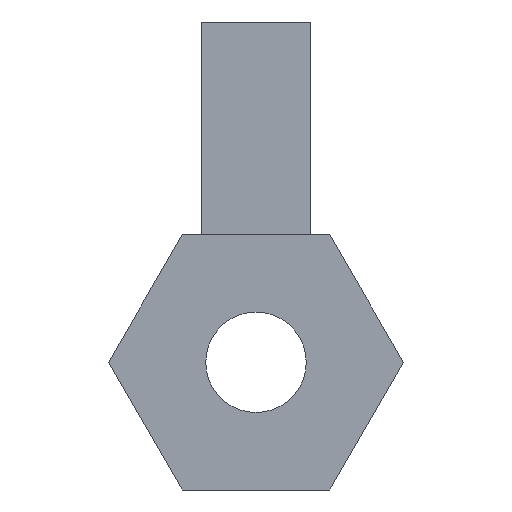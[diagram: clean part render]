
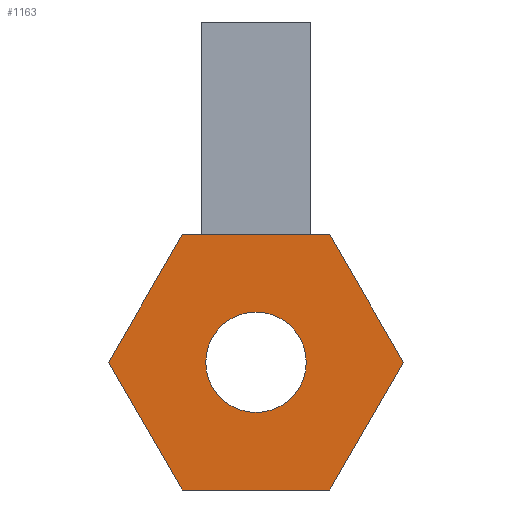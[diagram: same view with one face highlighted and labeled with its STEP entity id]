
A CAD part, left-side view. The second image highlights one B-rep face of the part: STEP entity #1163.
In plain terms, the highlighted planar face has unit normal (-1, 0, 0).
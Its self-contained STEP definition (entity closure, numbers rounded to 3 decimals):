
#346 = PLANE('',#347);
#347 = AXIS2_PLACEMENT_3D('',#348,#349,#350);
#348 = CARTESIAN_POINT('',(0.,0.,0.394));
#349 = DIRECTION('',(0.,0.,1.));
#350 = DIRECTION('',(0.,1.,0.));
#603 = CYLINDRICAL_SURFACE('',#604,0.155);
#604 = AXIS2_PLACEMENT_3D('',#605,#606,#607);
#605 = CARTESIAN_POINT('',(-1.54,0.,0.)
  );
#606 = DIRECTION('',(1.,0.,0.));
#607 = DIRECTION('',(0.,-1.,0.));
#632 = VERTEX_POINT('',#633);
#633 = CARTESIAN_POINT('',(-1.54,-0.155,0.));
#653 = EDGE_CURVE('',#632,#632,#654,.T.);
#654 = SURFACE_CURVE('',#655,(#660,#667),.PCURVE_S1.);
#655 = CIRCLE('',#656,0.155);
#656 = AXIS2_PLACEMENT_3D('',#657,#658,#659);
#657 = CARTESIAN_POINT('',(-1.54,0.,0.)
  );
#658 = DIRECTION('',(1.,0.,0.));
#659 = DIRECTION('',(0.,-1.,0.));
#660 = PCURVE('',#603,#661);
#661 = DEFINITIONAL_REPRESENTATION('',(#662),#666);
#662 = LINE('',#663,#664);
#663 = CARTESIAN_POINT('',(0.,0.));
#664 = VECTOR('',#665,1.);
#665 = DIRECTION('',(1.,0.));
#666 = ( GEOMETRIC_REPRESENTATION_CONTEXT(2) 
PARAMETRIC_REPRESENTATION_CONTEXT() REPRESENTATION_CONTEXT('2D SPACE',''
  ) );
#667 = PCURVE('',#668,#673);
#668 = PLANE('',#669);
#669 = AXIS2_PLACEMENT_3D('',#670,#671,#672);
#670 = CARTESIAN_POINT('',(-1.54,0.,0.)
  );
#671 = DIRECTION('',(1.,0.,0.));
#672 = DIRECTION('',(0.,0.,-1.));
#673 = DEFINITIONAL_REPRESENTATION('',(#674),#678);
#674 = CIRCLE('',#675,0.155);
#675 = AXIS2_PLACEMENT_2D('',#676,#677);
#676 = CARTESIAN_POINT('',(0.,0.));
#677 = DIRECTION('',(0.,-1.));
#678 = ( GEOMETRIC_REPRESENTATION_CONTEXT(2) 
PARAMETRIC_REPRESENTATION_CONTEXT() REPRESENTATION_CONTEXT('2D SPACE',''
  ) );
#710 = EDGE_CURVE('',#711,#713,#715,.T.);
#711 = VERTEX_POINT('',#712);
#712 = CARTESIAN_POINT('',(-1.54,-0.227,-0.394));
#713 = VERTEX_POINT('',#714);
#714 = CARTESIAN_POINT('',(-1.54,0.227,-0.394));
#715 = SURFACE_CURVE('',#716,(#720,#732),.PCURVE_S1.);
#716 = LINE('',#717,#718);
#717 = CARTESIAN_POINT('',(-1.54,0.227,-0.394));
#718 = VECTOR('',#719,1.);
#719 = DIRECTION('',(0.,1.,0.));
#720 = PCURVE('',#721,#726);
#721 = PLANE('',#722);
#722 = AXIS2_PLACEMENT_3D('',#723,#724,#725);
#723 = CARTESIAN_POINT('',(0.,0.,-0.394));
#724 = DIRECTION('',(0.,0.,-1.));
#725 = DIRECTION('',(0.,-1.,0.));
#726 = DEFINITIONAL_REPRESENTATION('',(#727),#731);
#727 = LINE('',#728,#729);
#728 = CARTESIAN_POINT('',(-0.227,1.54));
#729 = VECTOR('',#730,1.);
#730 = DIRECTION('',(-1.,-0.));
#731 = ( GEOMETRIC_REPRESENTATION_CONTEXT(2) 
PARAMETRIC_REPRESENTATION_CONTEXT() REPRESENTATION_CONTEXT('2D SPACE',''
  ) );
#732 = PCURVE('',#668,#733);
#733 = DEFINITIONAL_REPRESENTATION('',(#734),#738);
#734 = LINE('',#735,#736);
#735 = CARTESIAN_POINT('',(0.394,0.227));
#736 = VECTOR('',#737,1.);
#737 = DIRECTION('',(0.,1.));
#738 = ( GEOMETRIC_REPRESENTATION_CONTEXT(2) 
PARAMETRIC_REPRESENTATION_CONTEXT() REPRESENTATION_CONTEXT('2D SPACE',''
  ) );
#756 = PLANE('',#757);
#757 = AXIS2_PLACEMENT_3D('',#758,#759,#760);
#758 = CARTESIAN_POINT('',(0.,0.341,-0.197));
#759 = DIRECTION('',(0.,0.866,-0.5));
#760 = DIRECTION('',(0.,-0.5,-0.866));
#805 = PLANE('',#806);
#806 = AXIS2_PLACEMENT_3D('',#807,#808,#809);
#807 = CARTESIAN_POINT('',(0.,-0.341,-0.197));
#808 = DIRECTION('',(0.,-0.866,-0.5));
#809 = DIRECTION('',(0.,-0.5,0.866));
#820 = EDGE_CURVE('',#713,#821,#823,.T.);
#821 = VERTEX_POINT('',#822);
#822 = CARTESIAN_POINT('',(-1.54,0.455,0.));
#823 = SURFACE_CURVE('',#824,(#828,#835),.PCURVE_S1.);
#824 = LINE('',#825,#826);
#825 = CARTESIAN_POINT('',(-1.54,0.455,0.));
#826 = VECTOR('',#827,1.);
#827 = DIRECTION('',(0.,0.5,0.866));
#828 = PCURVE('',#756,#829);
#829 = DEFINITIONAL_REPRESENTATION('',(#830),#834);
#830 = LINE('',#831,#832);
#831 = CARTESIAN_POINT('',(-0.227,1.54));
#832 = VECTOR('',#833,1.);
#833 = DIRECTION('',(-1.,0.));
#834 = ( GEOMETRIC_REPRESENTATION_CONTEXT(2) 
PARAMETRIC_REPRESENTATION_CONTEXT() REPRESENTATION_CONTEXT('2D SPACE',''
  ) );
#835 = PCURVE('',#668,#836);
#836 = DEFINITIONAL_REPRESENTATION('',(#837),#841);
#837 = LINE('',#838,#839);
#838 = CARTESIAN_POINT('',(0.,0.455));
#839 = VECTOR('',#840,1.);
#840 = DIRECTION('',(-0.866,0.5));
#841 = ( GEOMETRIC_REPRESENTATION_CONTEXT(2) 
PARAMETRIC_REPRESENTATION_CONTEXT() REPRESENTATION_CONTEXT('2D SPACE',''
  ) );
#859 = PLANE('',#860);
#860 = AXIS2_PLACEMENT_3D('',#861,#862,#863);
#861 = CARTESIAN_POINT('',(0.,0.341,0.197));
#862 = DIRECTION('',(0.,0.866,0.5));
#863 = DIRECTION('',(0.,0.5,-0.866));
#896 = EDGE_CURVE('',#821,#897,#899,.T.);
#897 = VERTEX_POINT('',#898);
#898 = CARTESIAN_POINT('',(-1.54,0.227,0.394));
#899 = SURFACE_CURVE('',#900,(#904,#911),.PCURVE_S1.);
#900 = LINE('',#901,#902);
#901 = CARTESIAN_POINT('',(-1.54,0.227,0.394));
#902 = VECTOR('',#903,1.);
#903 = DIRECTION('',(0.,-0.5,0.866));
#904 = PCURVE('',#859,#905);
#905 = DEFINITIONAL_REPRESENTATION('',(#906),#910);
#906 = LINE('',#907,#908);
#907 = CARTESIAN_POINT('',(-0.227,1.54));
#908 = VECTOR('',#909,1.);
#909 = DIRECTION('',(-1.,0.));
#910 = ( GEOMETRIC_REPRESENTATION_CONTEXT(2) 
PARAMETRIC_REPRESENTATION_CONTEXT() REPRESENTATION_CONTEXT('2D SPACE',''
  ) );
#911 = PCURVE('',#668,#912);
#912 = DEFINITIONAL_REPRESENTATION('',(#913),#917);
#913 = LINE('',#914,#915);
#914 = CARTESIAN_POINT('',(-0.394,0.227));
#915 = VECTOR('',#916,1.);
#916 = DIRECTION('',(-0.866,-0.5));
#917 = ( GEOMETRIC_REPRESENTATION_CONTEXT(2) 
PARAMETRIC_REPRESENTATION_CONTEXT() REPRESENTATION_CONTEXT('2D SPACE',''
  ) );
#973 = EDGE_CURVE('',#897,#974,#976,.T.);
#974 = VERTEX_POINT('',#975);
#975 = CARTESIAN_POINT('',(-1.54,-0.227,0.394));
#976 = SURFACE_CURVE('',#977,(#981,#988),.PCURVE_S1.);
#977 = LINE('',#978,#979);
#978 = CARTESIAN_POINT('',(-1.54,-0.227,0.394));
#979 = VECTOR('',#980,1.);
#980 = DIRECTION('',(0.,-1.,0.));
#981 = PCURVE('',#346,#982);
#982 = DEFINITIONAL_REPRESENTATION('',(#983),#987);
#983 = LINE('',#984,#985);
#984 = CARTESIAN_POINT('',(-0.227,1.54));
#985 = VECTOR('',#986,1.);
#986 = DIRECTION('',(-1.,0.));
#987 = ( GEOMETRIC_REPRESENTATION_CONTEXT(2) 
PARAMETRIC_REPRESENTATION_CONTEXT() REPRESENTATION_CONTEXT('2D SPACE',''
  ) );
#988 = PCURVE('',#668,#989);
#989 = DEFINITIONAL_REPRESENTATION('',(#990),#994);
#990 = LINE('',#991,#992);
#991 = CARTESIAN_POINT('',(-0.394,-0.227));
#992 = VECTOR('',#993,1.);
#993 = DIRECTION('',(0.,-1.));
#994 = ( GEOMETRIC_REPRESENTATION_CONTEXT(2) 
PARAMETRIC_REPRESENTATION_CONTEXT() REPRESENTATION_CONTEXT('2D SPACE',''
  ) );
#1012 = PLANE('',#1013);
#1013 = AXIS2_PLACEMENT_3D('',#1014,#1015,#1016);
#1014 = CARTESIAN_POINT('',(0.,-0.341,0.197));
#1015 = DIRECTION('',(0.,-0.866,0.5));
#1016 = DIRECTION('',(0.,0.5,0.866));
#1049 = EDGE_CURVE('',#974,#1050,#1052,.T.);
#1050 = VERTEX_POINT('',#1051);
#1051 = CARTESIAN_POINT('',(-1.54,-0.455,0.));
#1052 = SURFACE_CURVE('',#1053,(#1057,#1064),.PCURVE_S1.);
#1053 = LINE('',#1054,#1055);
#1054 = CARTESIAN_POINT('',(-1.54,-0.455,0.));
#1055 = VECTOR('',#1056,1.);
#1056 = DIRECTION('',(0.,-0.5,-0.866));
#1057 = PCURVE('',#1012,#1058);
#1058 = DEFINITIONAL_REPRESENTATION('',(#1059),#1063);
#1059 = LINE('',#1060,#1061);
#1060 = CARTESIAN_POINT('',(-0.227,1.54));
#1061 = VECTOR('',#1062,1.);
#1062 = DIRECTION('',(-1.,-0.));
#1063 = ( GEOMETRIC_REPRESENTATION_CONTEXT(2) 
PARAMETRIC_REPRESENTATION_CONTEXT() REPRESENTATION_CONTEXT('2D SPACE',''
  ) );
#1064 = PCURVE('',#668,#1065);
#1065 = DEFINITIONAL_REPRESENTATION('',(#1066),#1070);
#1066 = LINE('',#1067,#1068);
#1067 = CARTESIAN_POINT('',(0.,-0.455));
#1068 = VECTOR('',#1069,1.);
#1069 = DIRECTION('',(0.866,-0.5));
#1070 = ( GEOMETRIC_REPRESENTATION_CONTEXT(2) 
PARAMETRIC_REPRESENTATION_CONTEXT() REPRESENTATION_CONTEXT('2D SPACE',''
  ) );
#1120 = EDGE_CURVE('',#1050,#711,#1121,.T.);
#1121 = SURFACE_CURVE('',#1122,(#1126,#1133),.PCURVE_S1.);
#1122 = LINE('',#1123,#1124);
#1123 = CARTESIAN_POINT('',(-1.54,-0.227,-0.394));
#1124 = VECTOR('',#1125,1.);
#1125 = DIRECTION('',(0.,0.5,-0.866));
#1126 = PCURVE('',#805,#1127);
#1127 = DEFINITIONAL_REPRESENTATION('',(#1128),#1132);
#1128 = LINE('',#1129,#1130);
#1129 = CARTESIAN_POINT('',(-0.227,1.54));
#1130 = VECTOR('',#1131,1.);
#1131 = DIRECTION('',(-1.,-0.));
#1132 = ( GEOMETRIC_REPRESENTATION_CONTEXT(2) 
PARAMETRIC_REPRESENTATION_CONTEXT() REPRESENTATION_CONTEXT('2D SPACE',''
  ) );
#1133 = PCURVE('',#668,#1134);
#1134 = DEFINITIONAL_REPRESENTATION('',(#1135),#1139);
#1135 = LINE('',#1136,#1137);
#1136 = CARTESIAN_POINT('',(0.394,-0.227));
#1137 = VECTOR('',#1138,1.);
#1138 = DIRECTION('',(0.866,0.5));
#1139 = ( GEOMETRIC_REPRESENTATION_CONTEXT(2) 
PARAMETRIC_REPRESENTATION_CONTEXT() REPRESENTATION_CONTEXT('2D SPACE',''
  ) );
#1163 = ADVANCED_FACE('',(#1164,#1167),#668,.F.);
#1164 = FACE_BOUND('',#1165,.T.);
#1165 = EDGE_LOOP('',(#1166));
#1166 = ORIENTED_EDGE('',*,*,#653,.T.);
#1167 = FACE_BOUND('',#1168,.T.);
#1168 = EDGE_LOOP('',(#1169,#1170,#1171,#1172,#1173,#1174));
#1169 = ORIENTED_EDGE('',*,*,#710,.F.);
#1170 = ORIENTED_EDGE('',*,*,#1120,.F.);
#1171 = ORIENTED_EDGE('',*,*,#1049,.F.);
#1172 = ORIENTED_EDGE('',*,*,#973,.F.);
#1173 = ORIENTED_EDGE('',*,*,#896,.F.);
#1174 = ORIENTED_EDGE('',*,*,#820,.F.);
